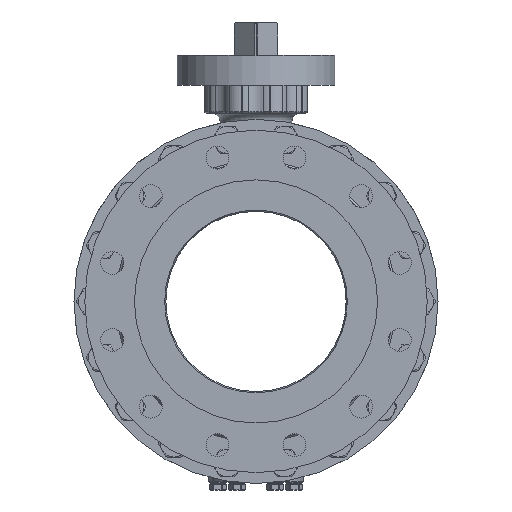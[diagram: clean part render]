
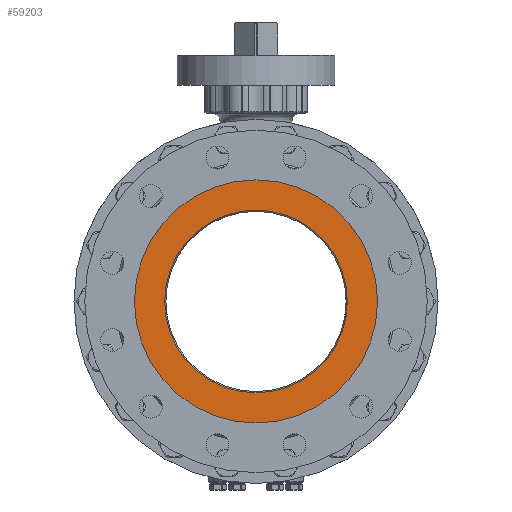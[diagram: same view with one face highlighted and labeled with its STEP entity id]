
A CAD part, left-side view. The second image highlights one B-rep face of the part: STEP entity #59203.
In plain terms, the highlighted planar face has unit normal (-1, 0, 0).
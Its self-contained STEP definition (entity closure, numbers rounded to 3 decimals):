
#4186=CARTESIAN_POINT('',(-251.,0.,0.));
#4187=DIRECTION('',(1.,0.,0.));
#4188=DIRECTION('',(0.,0.,1.));
#4189=AXIS2_PLACEMENT_3D('',#4186,#4187,#4188);
#4191=CARTESIAN_POINT('',(-251.,0.,0.));
#4192=DIRECTION('',(-1.,0.,0.));
#4193=DIRECTION('',(0.,0.,1.));
#4194=AXIS2_PLACEMENT_3D('',#4191,#4192,#4193);
#4196=CARTESIAN_POINT('',(-251.,0.,0.));
#4197=DIRECTION('',(1.,0.,0.));
#4198=DIRECTION('',(0.,0.,1.));
#4199=AXIS2_PLACEMENT_3D('',#4196,#4197,#4198);
#4201=CARTESIAN_POINT('',(-251.,0.,0.));
#4202=DIRECTION('',(-1.,0.,0.));
#4203=DIRECTION('',(0.,0.,1.));
#4204=AXIS2_PLACEMENT_3D('',#4201,#4202,#4203);
#49074=CARTESIAN_POINT('',(-251.,0.,101.35));
#49076=VERTEX_POINT('',#49074);
#49082=CARTESIAN_POINT('',(-251.,0.,-101.35));
#49084=VERTEX_POINT('',#49082);
#49201=CARTESIAN_POINT('',(-251.,0.,134.85));
#49203=VERTEX_POINT('',#49201);
#49205=CARTESIAN_POINT('',(-251.,0.,-134.85));
#49207=VERTEX_POINT('',#49205);
#59188=CARTESIAN_POINT('',(-251.,0.,0.));
#59189=DIRECTION('',(-1.,0.,0.));
#59190=DIRECTION('',(0.,0.,-1.));
#59191=AXIS2_PLACEMENT_3D('',#59188,#59189,#59190);
#59192=PLANE('',#59191);
#59193=ORIENTED_EDGE('',*,*,#59181,.F.);
#59194=ORIENTED_EDGE('',*,*,#59170,.T.);
#59195=EDGE_LOOP('',(#59193,#59194));
#59196=FACE_OUTER_BOUND('',#59195,.F.);
#59198=ORIENTED_EDGE('',*,*,#59197,.F.);
#59200=ORIENTED_EDGE('',*,*,#59199,.T.);
#59201=EDGE_LOOP('',(#59198,#59200));
#59202=FACE_BOUND('',#59201,.F.);
#59203=ADVANCED_FACE('',(#59196,#59202),#59192,.T.);
#4190=CIRCLE('',#4189,134.85);
#4195=CIRCLE('',#4194,134.85);
#4200=CIRCLE('',#4199,101.35);
#4205=CIRCLE('',#4204,101.35);
#59170=EDGE_CURVE('',#49203,#49207,#4190,.T.);
#59181=EDGE_CURVE('',#49203,#49207,#4195,.T.);
#59197=EDGE_CURVE('',#49076,#49084,#4200,.T.);
#59199=EDGE_CURVE('',#49076,#49084,#4205,.T.);
